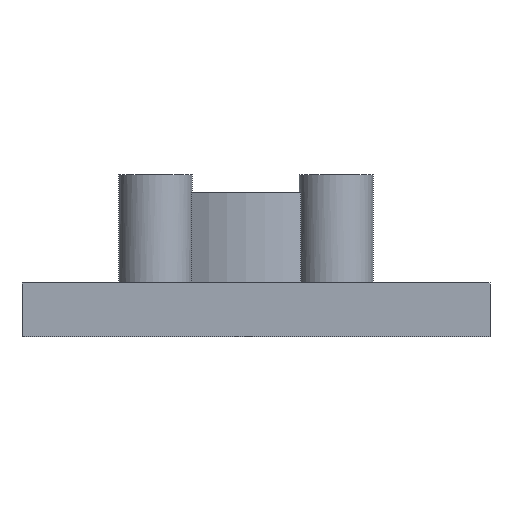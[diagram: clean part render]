
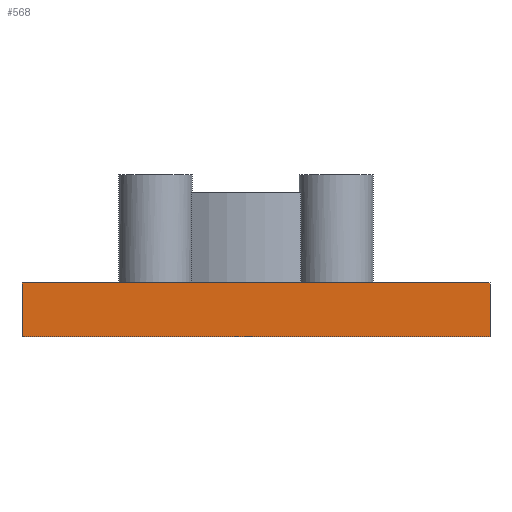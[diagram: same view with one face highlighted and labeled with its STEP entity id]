
A CAD part, front view. The second image highlights one B-rep face of the part: STEP entity #568.
In plain terms, the highlighted planar face has unit normal (0, -1, 0).
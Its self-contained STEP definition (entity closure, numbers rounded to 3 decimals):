
#32 = PLANE('',#33);
#33 = AXIS2_PLACEMENT_3D('',#34,#35,#36);
#34 = CARTESIAN_POINT('',(-76.,45.,0.));
#35 = DIRECTION('',(0.,0.,-1.));
#36 = DIRECTION('',(1.,0.,0.));
#118 = VERTEX_POINT('',#119);
#119 = CARTESIAN_POINT('',(26.,0.,0.));
#133 = PLANE('',#134);
#134 = AXIS2_PLACEMENT_3D('',#135,#136,#137);
#135 = CARTESIAN_POINT('',(26.,38.,10.));
#136 = DIRECTION('',(1.,0.,0.));
#137 = DIRECTION('',(0.,0.,-1.));
#145 = EDGE_CURVE('',#118,#146,#148,.T.);
#146 = VERTEX_POINT('',#147);
#147 = CARTESIAN_POINT('',(0.,0.,0.));
#148 = SURFACE_CURVE('',#149,(#153,#160),.PCURVE_S1.);
#149 = LINE('',#150,#151);
#150 = CARTESIAN_POINT('',(-38.,0.,0.));
#151 = VECTOR('',#152,1.);
#152 = DIRECTION('',(-1.,-0.,0.));
#153 = PCURVE('',#32,#154);
#154 = DEFINITIONAL_REPRESENTATION('',(#155),#159);
#155 = LINE('',#156,#157);
#156 = CARTESIAN_POINT('',(38.,45.));
#157 = VECTOR('',#158,1.);
#158 = DIRECTION('',(-1.,0.));
#159 = ( GEOMETRIC_REPRESENTATION_CONTEXT(2) 
PARAMETRIC_REPRESENTATION_CONTEXT() REPRESENTATION_CONTEXT('2D SPACE',''
  ) );
#160 = PCURVE('',#161,#166);
#161 = PLANE('',#162);
#162 = AXIS2_PLACEMENT_3D('',#163,#164,#165);
#163 = CARTESIAN_POINT('',(0.,0.,10.));
#164 = DIRECTION('',(0.,-1.,0.));
#165 = DIRECTION('',(0.,0.,-1.));
#166 = DEFINITIONAL_REPRESENTATION('',(#167),#171);
#167 = LINE('',#168,#169);
#168 = CARTESIAN_POINT('',(10.,-38.));
#169 = VECTOR('',#170,1.);
#170 = DIRECTION('',(-0.,-1.));
#171 = ( GEOMETRIC_REPRESENTATION_CONTEXT(2) 
PARAMETRIC_REPRESENTATION_CONTEXT() REPRESENTATION_CONTEXT('2D SPACE',''
  ) );
#187 = PLANE('',#188);
#188 = AXIS2_PLACEMENT_3D('',#189,#190,#191);
#189 = CARTESIAN_POINT('',(0.,38.,10.));
#190 = DIRECTION('',(1.,0.,0.));
#191 = DIRECTION('',(0.,0.,-1.));
#465 = PLANE('',#466);
#466 = AXIS2_PLACEMENT_3D('',#467,#468,#469);
#467 = CARTESIAN_POINT('',(-76.,45.,3.));
#468 = DIRECTION('',(0.,0.,-1.));
#469 = DIRECTION('',(1.,0.,0.));
#525 = VERTEX_POINT('',#526);
#526 = CARTESIAN_POINT('',(0.,0.,3.));
#547 = EDGE_CURVE('',#525,#146,#548,.T.);
#548 = SURFACE_CURVE('',#549,(#553,#560),.PCURVE_S1.);
#549 = LINE('',#550,#551);
#550 = CARTESIAN_POINT('',(0.,0.,10.));
#551 = VECTOR('',#552,1.);
#552 = DIRECTION('',(0.,0.,-1.));
#553 = PCURVE('',#187,#554);
#554 = DEFINITIONAL_REPRESENTATION('',(#555),#559);
#555 = LINE('',#556,#557);
#556 = CARTESIAN_POINT('',(0.,-38.));
#557 = VECTOR('',#558,1.);
#558 = DIRECTION('',(1.,0.));
#559 = ( GEOMETRIC_REPRESENTATION_CONTEXT(2) 
PARAMETRIC_REPRESENTATION_CONTEXT() REPRESENTATION_CONTEXT('2D SPACE',''
  ) );
#560 = PCURVE('',#161,#561);
#561 = DEFINITIONAL_REPRESENTATION('',(#562),#566);
#562 = LINE('',#563,#564);
#563 = CARTESIAN_POINT('',(0.,0.));
#564 = VECTOR('',#565,1.);
#565 = DIRECTION('',(1.,0.));
#566 = ( GEOMETRIC_REPRESENTATION_CONTEXT(2) 
PARAMETRIC_REPRESENTATION_CONTEXT() REPRESENTATION_CONTEXT('2D SPACE',''
  ) );
#568 = ADVANCED_FACE('',(#569),#161,.T.);
#569 = FACE_BOUND('',#570,.T.);
#570 = EDGE_LOOP('',(#571,#594,#615,#616));
#571 = ORIENTED_EDGE('',*,*,#572,.F.);
#572 = EDGE_CURVE('',#573,#118,#575,.T.);
#573 = VERTEX_POINT('',#574);
#574 = CARTESIAN_POINT('',(26.,0.,3.));
#575 = SURFACE_CURVE('',#576,(#580,#587),.PCURVE_S1.);
#576 = LINE('',#577,#578);
#577 = CARTESIAN_POINT('',(26.,0.,10.));
#578 = VECTOR('',#579,1.);
#579 = DIRECTION('',(0.,0.,-1.));
#580 = PCURVE('',#161,#581);
#581 = DEFINITIONAL_REPRESENTATION('',(#582),#586);
#582 = LINE('',#583,#584);
#583 = CARTESIAN_POINT('',(0.,26.));
#584 = VECTOR('',#585,1.);
#585 = DIRECTION('',(1.,0.));
#586 = ( GEOMETRIC_REPRESENTATION_CONTEXT(2) 
PARAMETRIC_REPRESENTATION_CONTEXT() REPRESENTATION_CONTEXT('2D SPACE',''
  ) );
#587 = PCURVE('',#133,#588);
#588 = DEFINITIONAL_REPRESENTATION('',(#589),#593);
#589 = LINE('',#590,#591);
#590 = CARTESIAN_POINT('',(0.,-38.));
#591 = VECTOR('',#592,1.);
#592 = DIRECTION('',(1.,0.));
#593 = ( GEOMETRIC_REPRESENTATION_CONTEXT(2) 
PARAMETRIC_REPRESENTATION_CONTEXT() REPRESENTATION_CONTEXT('2D SPACE',''
  ) );
#594 = ORIENTED_EDGE('',*,*,#595,.T.);
#595 = EDGE_CURVE('',#573,#525,#596,.T.);
#596 = SURFACE_CURVE('',#597,(#601,#608),.PCURVE_S1.);
#597 = LINE('',#598,#599);
#598 = CARTESIAN_POINT('',(-38.,0.,3.));
#599 = VECTOR('',#600,1.);
#600 = DIRECTION('',(-1.,-0.,0.));
#601 = PCURVE('',#161,#602);
#602 = DEFINITIONAL_REPRESENTATION('',(#603),#607);
#603 = LINE('',#604,#605);
#604 = CARTESIAN_POINT('',(7.,-38.));
#605 = VECTOR('',#606,1.);
#606 = DIRECTION('',(-0.,-1.));
#607 = ( GEOMETRIC_REPRESENTATION_CONTEXT(2) 
PARAMETRIC_REPRESENTATION_CONTEXT() REPRESENTATION_CONTEXT('2D SPACE',''
  ) );
#608 = PCURVE('',#465,#609);
#609 = DEFINITIONAL_REPRESENTATION('',(#610),#614);
#610 = LINE('',#611,#612);
#611 = CARTESIAN_POINT('',(38.,45.));
#612 = VECTOR('',#613,1.);
#613 = DIRECTION('',(-1.,0.));
#614 = ( GEOMETRIC_REPRESENTATION_CONTEXT(2) 
PARAMETRIC_REPRESENTATION_CONTEXT() REPRESENTATION_CONTEXT('2D SPACE',''
  ) );
#615 = ORIENTED_EDGE('',*,*,#547,.T.);
#616 = ORIENTED_EDGE('',*,*,#145,.F.);
